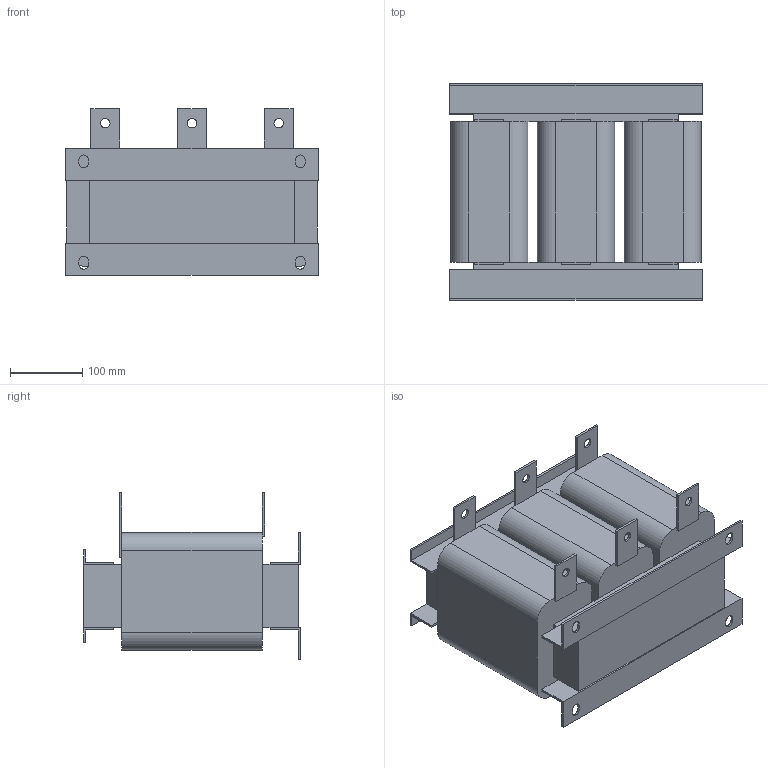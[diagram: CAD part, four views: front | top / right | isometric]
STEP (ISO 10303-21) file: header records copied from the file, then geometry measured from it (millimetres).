
FILE_DESCRIPTION(/* description */ (''),/* implementation_level */ '2;1');
FILE_NAME(/* name */ 'E:\Работа\Веда МК (Данфосс)\!Текущие задачи\2024.08.30 3D модели\Дроссели\ACO 1-проц 660 В\STP\ACO-C-0380-T6.stp',/* time_stamp */ '2024-11-01T15:22:55+04:00',/* author */ ('Александр (огранич)'),/* organization */ (''),/* preprocessor_version */ 'ST-DEVELOPER v18.1',/* originating_system */ 'Autodesk Inventor 2021',/* authorisation */ '');
FILE_SCHEMA (('AUTOMOTIVE_DESIGN { 1 0 10303 214 3 1 1 }'));
Length unit declared in the file: millimetre
Products named in the file (1): ACO-0015-T4-4
Bounding box: 350 x 300 x 230.5 mm (x, y, z)
Volume: 12818757.8 mm3; surface area: 669517.1 mm2
Topology: 3 solids, 3 shells, 136 faces, 373 edges, 239 vertices
Faces by surface type: plane 110, cylinder 26
Full cylindrical faces by diameter (mm): 13 x6
Entity records: 4327 total; most frequent: CARTESIAN_POINT 749, ORIENTED_EDGE 746, DIRECTION 702, EDGE_CURVE 373, LINE 318, VECTOR 318, VERTEX_POINT 239, AXIS2_PLACEMENT_3D 192
